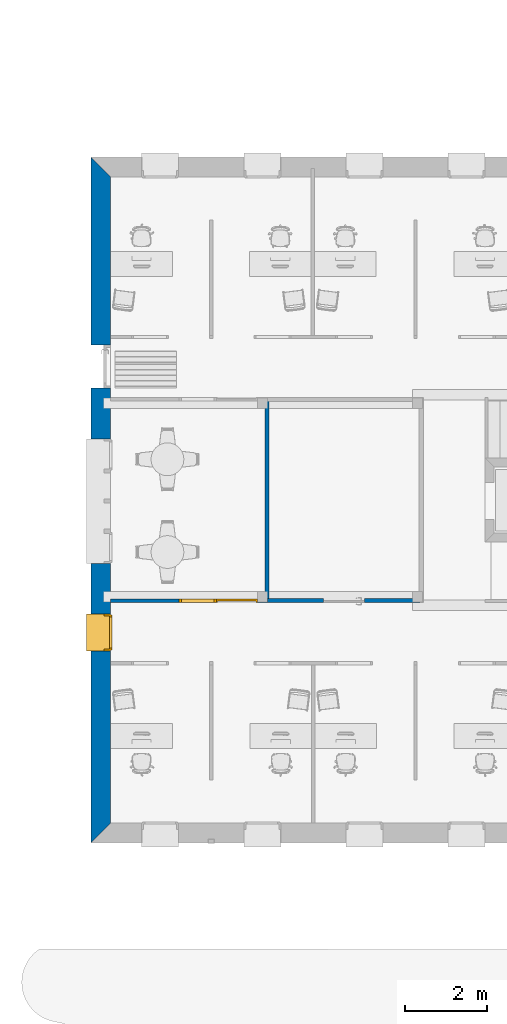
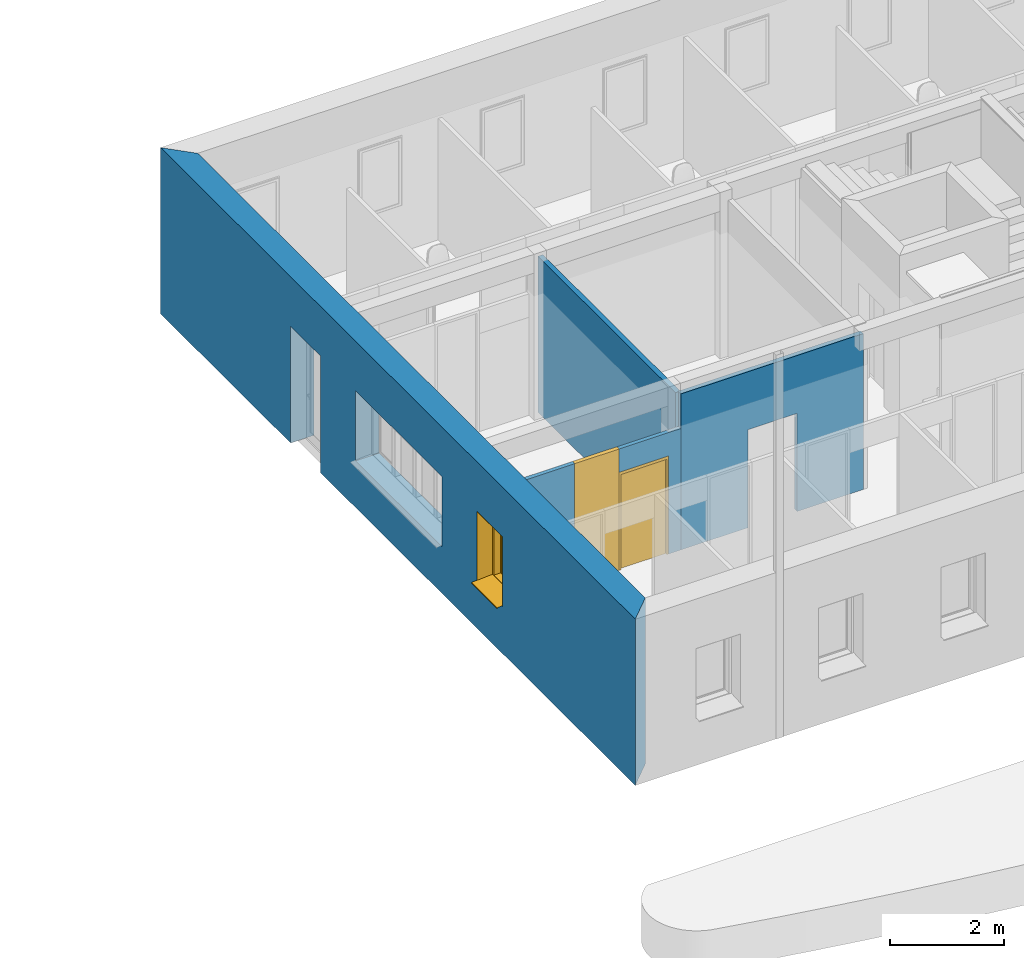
# One storey, part 13 of 91: 4 walls, 2 windows, 1 door, 6 openings.
"""IFC2X3 building model written with IfcOpenShell, lengths in metres."""

from ifc_helpers import new_model, entity, si_unit, converted_unit, derived_unit, money_unit, direction, frame, origin_with_axes, origin_2d_with_axis, place, context, subcontext, project, spatial, polyline, rectangle, outline, extrude, open_shell, faceted_brep, surface_model, source, transform, mapped, material, layer, layer_set, layer_usage, type_object, element, fill, save


model = new_model("IFC2X3")

# Units and contexts
model_context = context("Model", 3, precision=1e-05, world=origin_with_axes(), true_north=direction((0.0, 1.0)))
body_context = subcontext(model_context, "Body", "Model", "MODEL_VIEW")
ifc_project = project(units=[si_unit("LENGTHUNIT", "METRE"), si_unit("AREAUNIT", "SQUARE_METRE"), si_unit("VOLUMEUNIT", "CUBIC_METRE"), converted_unit("PLANEANGLEUNIT", "DEGREE", entity("IfcPlaneAngleMeasure", 0.0174532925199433), si_unit("PLANEANGLEUNIT", "RADIAN"), dimensions=[0, 0, 0, 0, 0, 0, 0]), money_unit("EUR"), converted_unit("TIMEUNIT", "Year", entity("IfcTimeMeasure", 31557600.0), si_unit("TIMEUNIT", "SECOND"), dimensions=[0, 0, 1, 0, 0, 0, 0]), si_unit("MASSUNIT", "GRAM", prefix="KILO"), si_unit("THERMODYNAMICTEMPERATUREUNIT", "DEGREE_CELSIUS"), si_unit("LUMINOUSINTENSITYUNIT", "LUMEN"), si_unit("ENERGYUNIT", "JOULE", prefix="MEGA"), derived_unit("THERMALCONDUCTANCEUNIT", [(si_unit("POWERUNIT", "WATT"), 1), (si_unit("LENGTHUNIT", "METRE"), -1), (si_unit("THERMODYNAMICTEMPERATUREUNIT", "KELVIN"), -1)]), derived_unit("SPECIFICHEATCAPACITYUNIT", [(si_unit("ENERGYUNIT", "JOULE"), 1), (si_unit("MASSUNIT", "GRAM", prefix="KILO"), -1), (si_unit("THERMODYNAMICTEMPERATUREUNIT", "KELVIN"), -1)]), derived_unit("MASSDENSITYUNIT", [(si_unit("MASSUNIT", "GRAM", prefix="KILO"), 1), (si_unit("VOLUMEUNIT", "CUBIC_METRE"), -1)])], contexts=[model_context])

# Site, building, storey
site_placement = place(None, origin_with_axes())
site = spatial("IfcSite", under=ifc_project, at=site_placement, Name="Site", CompositionType="ELEMENT")
building_placement = place(site_placement, origin_with_axes())
building = spatial("IfcBuilding", under=site, at=building_placement, Name="Bâtiment", CompositionType="ELEMENT")
storey_placement = place(building_placement, origin_with_axes())
storey = spatial("IfcBuildingStorey", under=building, at=storey_placement, Name="RDC", CompositionType="ELEMENT", Elevation=0.0)

# Wall, opening
ifc_material_1 = material(Name="*PLAQUE DE PLATRE - CLOISON")
ifc_layer_1 = layer(ifc_material_1, 0.026, ventilated="UNKNOWN")
ifc_material_2 = material(Name="*GENERIQUE - ISOLATION INT")
ifc_layer_2 = layer(ifc_material_2, 0.048, ventilated="UNKNOWN")
ifc_layer_3 = layer(ifc_material_1, 0.026, ventilated="UNKNOWN")
ifc_layer_set_1 = layer_set([ifc_layer_1, ifc_layer_2, ifc_layer_3], Name="*Cloison 98")
ifc_layer_usage_1 = layer_usage(ifc_layer_set_1, "AXIS2", "NEGATIVE", 0.0)
wall_type_1 = type_object("IfcWallType", Name="*Cloison 98 100", PredefinedType="NOTDEFINED")
wall_1_placement = place(storey_placement, frame((32.61300800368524, -21.59756192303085, 0.0), z_axis=(0.0, 0.0, 1.0), x_axis=(-1.0, 0.0, 0.0)))
wall_1 = element("IfcWallStandardCase", 1, at=wall_1_placement, inside=storey, type_object=wall_type_1, material=ifc_layer_usage_1, Name="Cloison ép.10 - CF1h", context=body_context, shape_type="SweptSolid", body=[
    extrude(outline(polyline([(0.0, -0.1000000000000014), (3.697624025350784, -0.1000000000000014), (3.697624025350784, 0.0), (0.0, 0.0), (0.0, -0.1000000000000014)])), origin_with_axes(), (0.0, 0.0, 1.0), 3.34),
])
opening_1_placement = place(wall_1_placement, frame((1.841311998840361, 0.0, 0.0), z_axis=(0.0, 0.0, 1.0), x_axis=(1.0, 0.0, 0.0)))
element("IfcOpeningElement", 2, at=opening_1_placement, cuts=wall_1, Name="Pi.04 REI30", context=body_context, shape_type="SweptSolid", body=[
    extrude(rectangle(XDim=1.0, YDim=2.1, at=origin_2d_with_axis()), frame((0.0, -0.1000000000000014, 1.05), z_axis=(0.0, -1.0, 0.0), x_axis=(1.0, 0.0, 0.0)), (0.0, 0.0, -1.0), 0.3),
])

# Wall
ifc_layer_usage_2 = layer_usage(ifc_layer_set_1, "AXIS2", "POSITIVE", 0.0)
wall_2_placement = place(storey_placement, frame((28.85038397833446, -16.61756236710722, 0.0), z_axis=(0.0, 0.0, 1.0), x_axis=(0.0, -1.0, 0.0)))
element("IfcWallStandardCase", 3, at=wall_2_placement, inside=storey, type_object=wall_type_1, material=ifc_layer_usage_2, Name="Cloison ép.10 - CF1h", context=body_context, shape_type="SweptSolid", body=[
    extrude(outline(polyline([(0.0799999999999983, 0.0), (4.899999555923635, 0.0), (4.899999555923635, 0.1000000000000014), (0.0799999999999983, 0.1000000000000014), (0.0799999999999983, 0.0)])), origin_with_axes(), (0.0, 0.0, 1.0), 3.34),
])

# Wall, openings, window, door
ifc_layer_4 = layer(ifc_material_1, 0.08, ventilated="UNKNOWN")
ifc_layer_set_2 = layer_set([ifc_layer_4], Name="*PLAQUE DE PLATRE - CLOISON 0.08")
ifc_layer_usage_3 = layer_usage(ifc_layer_set_2, "AXIS2", "NEGATIVE", 0.0)
wall_type_2 = type_object("IfcWallType", Name="*PLAQUE DE PLATRE - CLOISON 80", PredefinedType="NOTDEFINED")
wall_3_placement = place(storey_placement, frame((28.91538397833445, -21.59756192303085, 0.0), z_axis=(0.0, 0.0, 1.0), x_axis=(-1.0, 0.0, 0.0)))
wall_3 = element("IfcWallStandardCase", 4, at=wall_3_placement, inside=storey, type_object=wall_type_2, material=ifc_layer_usage_3, Name="Cloison modulaire", context=body_context, shape_type="SweptSolid", body=[
    extrude(outline(polyline([(0.0, -0.0799999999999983), (3.815383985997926, -0.0799999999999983), (3.815383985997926, 0.0), (0.0, 0.0), (0.0, -0.0799999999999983)])), origin_with_axes(), (0.0, 0.0, 1.0), 2.6),
])
opening_2_placement = place(wall_3_placement, frame((1.699999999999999, 0.0, 0.0), z_axis=(0.0, 0.0, 1.0), x_axis=(1.0, 0.0, 0.0)))
opening_2 = element("IfcOpeningElement", 5, at=opening_2_placement, cuts=wall_3, Name="CH.1+vitrophanie", context=body_context, shape_type="SweptSolid", body=[
    extrude(rectangle(XDim=0.8999999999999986, YDim=2.6, at=origin_2d_with_axis()), frame((0.0, -0.0799999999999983, 1.3), z_axis=(0.0, -1.0, 0.0), x_axis=(-1.0, 0.0, 0.0)), (0.0, 0.0, -1.0), 0.24),
])
opening_3_placement = place(wall_3_placement, frame((0.75, 0.0, 0.0), z_axis=(0.0, 0.0, 1.0), x_axis=(1.0, 0.0, 0.0)))
opening_3 = element("IfcOpeningElement", 6, at=opening_3_placement, cuts=wall_3, Name="Pi.01", context=body_context, shape_type="SweptSolid", body=[
    extrude(rectangle(XDim=1.0, YDim=2.1, at=origin_2d_with_axis()), frame((0.0, 0.08000000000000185, 1.05), z_axis=(0.0, -1.0, 0.0), x_axis=(-1.0, 0.0, 0.0)), (0.0, 0.0, 1.0), 0.24),
])
window_style_1 = type_object("IfcWindowStyle", Name="Fenêtre 27", ConstructionType="NOTDEFINED", OperationType="SINGLE_PANEL", ParameterTakesPrecedence=False, Sizeable=False)
shared_shape_1 = source(origin_with_axes(), body_context, "Body", "SurfaceModel", [
    faceted_brep([(0.4, -0.08000000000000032, 2.55), (0.45, -0.08000000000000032, 2.6), (0.45, 0.0, 2.6), (0.4, 0.0, 2.55), (0.4, -0.08, 0.05), (0.45, -0.08, 0.0), (0.45, 0.0, 0.0), (0.4, 0.0, 0.05)], [[[0, 1, 2, 3]], [[0, 4, 5, 1]], [[1, 5, 6, 2]], [[3, 2, 6, 7]], [[4, 0, 3, 7]], [[5, 4, 7, 6]]]),
    faceted_brep([(-0.4, -0.08, 0.05), (-0.45, -0.08, 0.0), (-0.45, 0.0, 0.0), (-0.4, 0.0, 0.05), (-0.4, -0.08000000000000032, 2.55), (-0.45, -0.08000000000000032, 2.6), (-0.45, 0.0, 2.6), (-0.4, 0.0, 2.55)], [[[0, 1, 2, 3]], [[0, 4, 5, 1]], [[1, 5, 6, 2]], [[3, 2, 6, 7]], [[4, 0, 3, 7]], [[5, 4, 7, 6]]]),
    faceted_brep([(0.4, -0.08, 0.05), (0.45, -0.08, 0.0), (0.45, 0.0, 0.0), (0.4, 0.0, 0.05), (-0.4, -0.08, 0.05), (-0.45, -0.08, 0.0), (-0.45, 0.0, 0.0), (-0.4, 0.0, 0.05)], [[[0, 1, 2, 3]], [[0, 4, 5, 1]], [[1, 5, 6, 2]], [[3, 2, 6, 7]], [[4, 0, 3, 7]], [[5, 4, 7, 6]]]),
    faceted_brep([(-0.4, -0.08000000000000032, 2.55), (-0.45, -0.08000000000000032, 2.6), (-0.45, 0.0, 2.6), (-0.4, 0.0, 2.55), (0.4, -0.08000000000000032, 2.55), (0.45, -0.08000000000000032, 2.6), (0.45, 0.0, 2.6), (0.4, 0.0, 2.55)], [[[0, 1, 2, 3]], [[0, 4, 5, 1]], [[1, 5, 6, 2]], [[3, 2, 6, 7]], [[4, 0, 3, 7]], [[5, 4, 7, 6]]]),
    surface_model("IfcShellBasedSurfaceModel", [(0.4, -0.02, 0.05000000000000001), (0.4, -0.02000000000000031, 2.55), (-0.4, -0.02000000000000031, 2.55), (-0.4, -0.02, 0.05000000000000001)], [open_shell([[[0, 1, 2, 3]]])]),
    surface_model("IfcShellBasedSurfaceModel", [(0.4, 0.0, 0.05000000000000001), (-0.4, 0.0, 0.05000000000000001), (-0.4, 0.0, 2.55), (0.4, 0.0, 2.55)], [open_shell([[[0, 1, 2, 3]]])]),
])
window_1_placement = place(opening_2_placement, frame((-0.4499999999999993, 0.0, 0.0), z_axis=(0.0, 0.0, 1.0), x_axis=(1.0, 0.0, 0.0)))
window_1 = element("IfcWindow", 7, at=window_1_placement, inside=storey, type_object=window_style_1, Name="CH.1+vitrophanie", OverallHeight=2.6, OverallWidth=0.9, context=body_context, shape_type="MappedRepresentation", body=[
    mapped(shared_shape_1, transform((0.4499999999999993, 0.0, 0.0))),
])
fill(opening_2, window_1)
door_style = type_object("IfcDoorStyle", Name="Porte 27", ConstructionType="NOTDEFINED", OperationType="SINGLE_SWING_RIGHT", ParameterTakesPrecedence=False, Sizeable=False)
shared_shape_2 = source(origin_with_axes(), body_context, "Body", "Brep", [
    faceted_brep([(-0.465, -0.04, 0.0), (-0.465, -0.04, 2.04), (-0.465, -0.08, 2.04), (-0.465, -0.08, 0.0), (-0.495, -0.04, 2.04), (-0.495, -0.04, 0.0), (-0.495, 0.0, 2.04), (-0.5, 0.0, 2.04), (-0.5, -0.08, 2.04), (-0.5, -0.08, 0.0), (-0.5, 0.0, 0.0), (-0.495, 0.0, 0.0)], [[[0, 1, 2, 3]], [[4, 1, 0, 5]], [[4, 6, 7, 8, 2, 1]], [[3, 2, 8, 9]], [[5, 0, 3, 9, 10, 11]], [[6, 4, 5, 11]], [[6, 11, 10, 7]], [[10, 9, 8, 7]]]),
    faceted_brep([(0.495, -0.04, 2.04), (0.465, -0.04, 2.04), (0.465, -0.08, 2.04), (0.5, -0.08, 2.04), (0.5, 0.0, 2.04), (0.495, 0.0, 2.04), (0.495, -0.04, 0.0), (0.465, -0.04, 0.0), (0.465, -0.08, 0.0), (0.5, -0.08, 0.0), (0.5, 0.0, 0.0), (0.495, 0.0, 0.0)], [[[0, 1, 2, 3, 4, 5]], [[1, 0, 6, 7]], [[1, 7, 8, 2]], [[3, 2, 8, 9]], [[4, 3, 9, 10]], [[11, 5, 4, 10]], [[0, 5, 11, 6]], [[6, 11, 10, 9, 8, 7]]]),
    faceted_brep([(-0.495, 0.0, 2.07), (-0.495, 0.0, 2.04), (-0.5, 0.0, 2.04), (-0.5, 0.0, 2.1), (0.5, 0.0, 2.1), (0.5, 0.0, 2.04), (0.495, 0.0, 2.04), (0.495, 0.0, 2.07), (-0.495, -0.04, 2.07), (-0.495, -0.04, 2.04), (-0.465, -0.04, 2.04), (-0.465, -0.08, 2.04), (-0.5, -0.08, 2.04), (-0.5, -0.08, 2.1), (0.5, -0.08, 2.1), (0.5, -0.08, 2.04), (0.495, -0.04, 2.04), (0.465, -0.08, 2.04), (0.465, -0.04, 2.04), (0.495, -0.04, 2.07)], [[[0, 1, 2, 3, 4, 5, 6, 7]], [[1, 0, 8, 9]], [[9, 10, 11, 12, 2, 1]], [[2, 12, 13, 3]], [[3, 13, 14, 4]], [[4, 14, 15, 5]], [[16, 6, 5, 15, 17, 18]], [[7, 6, 16, 19]], [[0, 7, 19, 8]], [[16, 18, 10, 9, 8, 19]], [[10, 18, 17, 11]], [[17, 15, 14, 13, 12, 11]]]),
    faceted_brep([(0.495, 0.0, 0.0), (0.495, -0.04, 0.0), (-0.495, -0.04, 0.0), (-0.495, 0.0, 0.0), (0.495, 0.0, 2.07), (0.495, -0.04000000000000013, 2.07), (-0.495, -0.04000000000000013, 2.07), (-0.495, 0.0, 2.07)], [[[0, 1, 2, 3]], [[4, 5, 1, 0]], [[1, 5, 6, 2]], [[3, 2, 6, 7]], [[0, 3, 7, 4]], [[7, 6, 5, 4]]]),
])
door_placement = place(opening_3_placement, frame((0.5, 0.0, 0.0), z_axis=(0.0, 0.0, 1.0), x_axis=(-1.0, 0.0, 0.0)))
door = element("IfcDoor", 8, at=door_placement, inside=storey, type_object=door_style, Name="Pi.01", OverallHeight=2.1, OverallWidth=1.0, context=body_context, shape_type="MappedRepresentation", body=[
    mapped(shared_shape_2, transform((0.5, 0.0799999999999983, 0.0))),
])
fill(opening_3, door)

# Wall, openings, window
ifc_material_3 = material(Name="*MÉTAL- BARDAGE")
ifc_layer_5 = layer(ifc_material_3, 0.04, ventilated="UNKNOWN")
ifc_material_4 = material(Name="Divers - Vide faux plafond")
ifc_layer_6 = layer(ifc_material_4, 0.05, ventilated="UNKNOWN")
ifc_material_5 = material(Name="Finition int - Enduit plâtre")
ifc_layer_7 = layer(ifc_material_5, 0.01, ventilated="UNKNOWN")
ifc_material_6 = material(Name="*GENERIQUE - MAÇONNERIE")
ifc_layer_8 = layer(ifc_material_6, 0.2, ventilated="UNKNOWN")
ifc_layer_9 = layer(ifc_material_5, 0.01, ventilated="UNKNOWN")
ifc_material_7 = material(Name="Vide pour liteaux")
ifc_layer_10 = layer(ifc_material_7, 0.01, ventilated="UNKNOWN")
ifc_material_8 = material(Name="*GENERIQUE - ISOLATION PLANCHER")
ifc_layer_11 = layer(ifc_material_8, 0.14, ventilated="UNKNOWN")
ifc_material_9 = material(Name="*PLAQUE DE PLATRE - DOUBLAGE")
ifc_layer_12 = layer(ifc_material_9, 0.018, ventilated="UNKNOWN")
ifc_layer_set_3 = layer_set([ifc_layer_5, ifc_layer_6, ifc_layer_7, ifc_layer_8, ifc_layer_9, ifc_layer_10, ifc_layer_11, ifc_layer_12], Name="*MACONNERIE ITI BARDAGE METAL")
ifc_layer_usage_4 = layer_usage(ifc_layer_set_3, "AXIS2", "POSITIVE", -0.478)
wall_type_3 = type_object("IfcWallType", Name="*MACONNERIE ITI BARDAGE METAL 478", PredefinedType="NOTDEFINED")
wall_4_placement = place(storey_placement, frame((25.09999999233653, -11.25756213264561, 0.0), z_axis=(0.0, 0.0, 1.0), x_axis=(0.0, -1.0, 0.0)))
wall_4 = element("IfcWallStandardCase", 9, at=wall_4_placement, inside=storey, type_object=wall_type_3, material=ifc_layer_usage_4, Name="Mur maçonné + ITI + véture métallique", context=body_context, shape_type="SweptSolid", body=[
    extrude(outline(polyline([(-0.477999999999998, -0.4780000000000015), (16.17800002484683, -0.4780000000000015), (15.70000002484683, 0.0), (0.0, 0.0), (-0.477999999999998, -0.4780000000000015)])), origin_with_axes(), (0.0, 0.0, 1.0), 3.56),
])
opening_4_placement = place(wall_4_placement, frame((7.877000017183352, 0.0, 1.0), z_axis=(0.0, 0.0, 1.0), x_axis=(1.0, 0.0, 0.0)))
element("IfcOpeningElement", 10, at=opening_4_placement, cuts=wall_4, Name="ME.04", context=body_context, shape_type="SweptSolid", body=[
    extrude(rectangle(XDim=3.027999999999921, YDim=1.5, at=origin_2d_with_axis()), frame((0.0, -0.1580000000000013, 0.75), z_axis=(0.0, -1.0, 0.0), x_axis=(-1.0, 0.0, 0.0)), (0.0, 0.0, 1.0), 0.798),
    extrude(rectangle(XDim=3.027999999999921, YDim=1.5, at=origin_2d_with_axis()), frame((0.0, -0.1580000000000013, 0.75), z_axis=(0.0, 1.0, 0.0), x_axis=(-1.0, 0.0, 0.0)), (0.0, 0.0, 1.0), 0.6360000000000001),
])
opening_5_placement = place(wall_4_placement, frame((11.06500000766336, 0.0, 1.0), z_axis=(0.0, 0.0, 1.0), x_axis=(1.0, 0.0, 0.0)))
opening_5 = element("IfcOpeningElement", 11, at=opening_5_placement, cuts=wall_4, Name="ME.01", context=body_context, shape_type="SweptSolid", body=[
    extrude(rectangle(XDim=0.8999999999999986, YDim=1.5, at=origin_2d_with_axis()), frame((0.0, -0.1580000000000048, 0.75), z_axis=(0.0, -1.0, 0.0), x_axis=(-1.0, 0.0, 0.0)), (0.0, 0.0, 1.0), 0.798),
    extrude(rectangle(XDim=0.8999999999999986, YDim=1.5, at=origin_2d_with_axis()), frame((0.0, -0.1580000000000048, 0.75), z_axis=(0.0, 1.0, 0.0), x_axis=(-1.0, 0.0, 0.0)), (0.0, 0.0, 1.0), 0.6360000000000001),
])
opening_6_placement = place(wall_4_placement, frame((4.610000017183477, 0.0, 0.0), z_axis=(0.0, 0.0, 1.0), x_axis=(1.0, 0.0, 0.0)))
element("IfcOpeningElement", 12, at=opening_6_placement, cuts=wall_4, Name="PE.03", context=body_context, shape_type="SweptSolid", body=[
    extrude(rectangle(XDim=1.049999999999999, YDim=2.5, at=origin_2d_with_axis()), frame((0.0, -0.1580000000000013, 1.25), z_axis=(0.0, -1.0, 0.0), x_axis=(1.0, 0.0, 0.0)), (0.0, 0.0, 1.0), 0.798),
    extrude(rectangle(XDim=1.049999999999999, YDim=2.5, at=origin_2d_with_axis()), frame((0.0, -0.1580000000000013, 1.25), z_axis=(0.0, 1.0, 0.0), x_axis=(1.0, 0.0, 0.0)), (0.0, 0.0, 1.0), 0.6360000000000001),
])
window_style_2 = type_object("IfcWindowStyle", Name="Fenêtre 27", ConstructionType="NOTDEFINED", OperationType="SINGLE_PANEL", ParameterTakesPrecedence=False, Sizeable=False)
shared_shape_3 = source(origin_with_axes(), body_context, "Body", "SurfaceModel", [
    surface_model("IfcShellBasedSurfaceModel", [(0.45, -0.161, 0.05), (-0.45, -0.161, 0.05000000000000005), (-0.45, -0.161, 0.04000000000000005), (0.45, -0.161, 0.03999999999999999), (-0.45, -0.5850000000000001, 0.01343749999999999), (0.45, -0.5850000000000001, 0.01343749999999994), (-0.45, -0.5850000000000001, -0.006562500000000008), (0.45, -0.5850000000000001, -0.006562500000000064), (-0.45, -0.5750000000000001, 0.003437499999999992), (0.45, -0.5750000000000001, 0.003437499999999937)], [open_shell([[[0, 1, 2, 3]], [[3, 2, 4, 5]], [[5, 4, 6, 7]], [[7, 6, 8, 9]]])]),
    faceted_brep([(0.447, -0.48, 0.02001547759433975), (0.447, -0.4799999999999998, 1.497), (0.447, -0.1599999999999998, 1.497), (0.447, -0.16, 0.05000000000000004), (0.447, -0.161, 0.05000000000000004), (0.447, -0.161, 0.04000000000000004), (0.45, -0.4799999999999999, 0.02001547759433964), (0.45, -0.4799999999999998, 1.5), (0.45, -0.1599999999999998, 1.5), (0.45, -0.16, 0.05000000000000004), (0.45, -0.161, 0.05000000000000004), (0.45, -0.161, 0.04000000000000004)], [[[0, 1, 2, 3, 4, 5]], [[6, 7, 1, 0]], [[8, 2, 1, 7]], [[3, 2, 8, 9]], [[3, 9, 10, 4]], [[4, 10, 11, 5]], [[5, 11, 6, 0]], [[11, 10, 9, 8, 7, 6]]]),
    faceted_brep([(-0.45, -0.48, 0.02001547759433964), (-0.45, -0.4799999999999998, 1.5), (-0.45, -0.1599999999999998, 1.5), (-0.45, -0.16, 0.05000000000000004), (-0.45, -0.161, 0.05000000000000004), (-0.45, -0.161, 0.04000000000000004), (-0.447, -0.48, 0.02001547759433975), (-0.447, -0.4799999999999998, 1.497), (-0.447, -0.1599999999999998, 1.497), (-0.447, -0.16, 0.05000000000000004), (-0.447, -0.161, 0.05000000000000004), (-0.447, -0.161, 0.04000000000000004)], [[[0, 1, 2, 3, 4, 5]], [[6, 7, 1, 0]], [[8, 2, 1, 7]], [[3, 2, 8, 9]], [[3, 9, 10, 4]], [[4, 10, 11, 5]], [[5, 11, 6, 0]], [[11, 10, 9, 8, 7, 6]]]),
    faceted_brep([(0.45, -0.1599999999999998, 1.5), (0.45, -0.4799999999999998, 1.5), (0.447, -0.4799999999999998, 1.497), (0.447, -0.1599999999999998, 1.497), (-0.45, -0.1599999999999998, 1.5), (-0.45, -0.4799999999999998, 1.5), (-0.447, -0.4799999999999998, 1.497), (-0.447, -0.1599999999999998, 1.497)], [[[0, 1, 2, 3]], [[4, 5, 1, 0]], [[1, 5, 6, 2]], [[3, 2, 6, 7]], [[0, 3, 7, 4]], [[7, 6, 5, 4]]]),
    faceted_brep([(0.425, 0.0, 1.45), (0.425, -0.02500000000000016, 1.45), (0.4, -0.02500000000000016, 1.45), (0.4, -0.1600000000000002, 1.45), (0.45, -0.1600000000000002, 1.45), (0.45, 0.0, 1.45), (0.425, 0.0, 0.05000000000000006), (0.425, -0.02499999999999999, 0.05000000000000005), (0.4, -0.02499999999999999, 0.05000000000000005), (0.4, -0.16, 0.05000000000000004), (0.45, -0.16, 0.05000000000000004), (0.45, 0.0, 0.05000000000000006)], [[[0, 1, 2, 3, 4, 5]], [[1, 0, 6, 7]], [[8, 2, 1, 7]], [[2, 8, 9, 3]], [[4, 3, 9, 10]], [[5, 4, 10, 11]], [[6, 0, 5, 11]], [[7, 6, 11, 10, 9, 8]]]),
    faceted_brep([(-0.4, -0.02500000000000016, 1.45), (-0.425, -0.02500000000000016, 1.45), (-0.425, 0.0, 1.45), (-0.45, 0.0, 1.45), (-0.45, -0.1600000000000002, 1.45), (-0.4, -0.1600000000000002, 1.45), (-0.4, -0.02499999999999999, 0.05000000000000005), (-0.425, -0.02499999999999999, 0.05000000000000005), (-0.425, 0.0, 0.05000000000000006), (-0.45, 0.0, 0.05000000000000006), (-0.45, -0.16, 0.05000000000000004), (-0.4, -0.16, 0.05000000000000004)], [[[0, 1, 2, 3, 4, 5]], [[1, 0, 6, 7]], [[8, 2, 1, 7]], [[2, 8, 9, 3]], [[9, 10, 4, 3]], [[10, 11, 5, 4]], [[6, 0, 5, 11]], [[7, 6, 11, 10, 9, 8]]]),
    faceted_brep([(-0.4, -0.02499999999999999, 0.05000000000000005), (-0.425, -0.02499999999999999, 0.05000000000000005), (-0.425, 0.0, 0.05000000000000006), (-0.45, 0.0, 0.05000000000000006), (-0.45, -0.16, 0.05000000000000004), (-0.4, -0.16, 0.05000000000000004), (0.4, -0.02499999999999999, 0.05000000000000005), (0.425, -0.02499999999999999, 0.05000000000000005), (0.425, -0.02499999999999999, 0.02500000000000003), (-0.425, -0.02499999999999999, 0.02500000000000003), (-0.425, 0.0, 0.02500000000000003), (0.425, 0.0, 0.02500000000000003), (0.425, 0.0, 0.05000000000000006), (0.45, 0.0, 0.05000000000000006), (0.45, 0.0, 0.0), (-0.45, 0.0, 0.0), (-0.45, -0.16, 0.0), (0.45, -0.16, 0.05000000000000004), (0.4, -0.16, 0.05000000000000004), (0.45, -0.16, 0.0)], [[[0, 1, 2, 3, 4, 5]], [[1, 0, 6, 7, 8, 9]], [[10, 2, 1, 9]], [[11, 12, 13, 14, 15, 3, 2, 10]], [[15, 16, 4, 3]], [[17, 18, 5, 4, 16, 19]], [[6, 0, 5, 18]], [[7, 6, 18, 17, 13, 12]], [[7, 12, 11, 8]], [[11, 10, 9, 8]], [[13, 17, 19, 14]], [[14, 19, 16, 15]]]),
    faceted_brep([(0.425, 0.0, 1.45), (0.425, 0.0, 1.475), (-0.425, 0.0, 1.475), (-0.425, 0.0, 1.45), (-0.45, 0.0, 1.45), (-0.45, 0.0, 1.5), (0.45, 0.0, 1.5), (0.45, 0.0, 1.45), (0.425, -0.02500000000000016, 1.45), (0.425, -0.02500000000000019, 1.475), (-0.425, -0.02500000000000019, 1.475), (-0.425, -0.02500000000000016, 1.45), (-0.4, -0.02500000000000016, 1.45), (-0.4, -0.1600000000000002, 1.45), (-0.45, -0.1600000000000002, 1.45), (-0.45, -0.1600000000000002, 1.5), (0.45, -0.1600000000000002, 1.5), (0.45, -0.1600000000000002, 1.45), (0.4, -0.1600000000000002, 1.45), (0.4, -0.02500000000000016, 1.45)], [[[0, 1, 2, 3, 4, 5, 6, 7]], [[1, 0, 8, 9]], [[2, 1, 9, 10]], [[3, 2, 10, 11]], [[11, 12, 13, 14, 4, 3]], [[4, 14, 15, 5]], [[5, 15, 16, 6]], [[6, 16, 17, 7]], [[8, 0, 7, 17, 18, 19]], [[12, 11, 10, 9, 8, 19]], [[12, 19, 18, 13]], [[14, 13, 18, 17, 16, 15]]]),
    faceted_brep([(0.3750000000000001, -0.02500000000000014, 1.425), (0.425, -0.02500000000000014, 1.425), (0.425, 0.02499999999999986, 1.425), (0.3750000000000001, 0.02499999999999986, 1.425), (0.3750000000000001, -0.02499999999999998, 0.07500000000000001), (0.425, -0.02499999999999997, 0.07500000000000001), (0.425, 0.02500000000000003, 0.07500000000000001), (0.3750000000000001, 0.02500000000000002, 0.07500000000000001)], [[[0, 1, 2, 3]], [[0, 4, 5, 1]], [[1, 5, 6, 2]], [[3, 2, 6, 7]], [[4, 0, 3, 7]], [[5, 4, 7, 6]]]),
    faceted_brep([(-0.3750000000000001, -0.02500000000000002, 0.07500000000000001), (-0.425, -0.02500000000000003, 0.07500000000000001), (-0.425, 0.02499999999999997, 0.07500000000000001), (-0.3750000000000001, 0.02499999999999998, 0.07500000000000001), (-0.3750000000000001, -0.02500000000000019, 1.425), (-0.425, -0.02500000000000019, 1.425), (-0.425, 0.02499999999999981, 1.425), (-0.3750000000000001, 0.02499999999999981, 1.425)], [[[0, 1, 2, 3]], [[0, 4, 5, 1]], [[1, 5, 6, 2]], [[3, 2, 6, 7]], [[4, 0, 3, 7]], [[5, 4, 7, 6]]]),
    faceted_brep([(-0.425, -0.02500000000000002, 0.02500000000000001), (-0.425, -0.02500000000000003, 0.07500000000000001), (-0.425, 0.02499999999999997, 0.07500000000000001), (-0.425, 0.02499999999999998, 0.02500000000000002), (0.425, -0.02499999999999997, 0.02500000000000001), (0.425, -0.02499999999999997, 0.07500000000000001), (0.3750000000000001, -0.02499999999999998, 0.07500000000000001), (-0.3750000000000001, -0.02500000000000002, 0.07500000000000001), (-0.3750000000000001, 0.02499999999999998, 0.07500000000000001), (0.3750000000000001, 0.02500000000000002, 0.07500000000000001), (0.425, 0.02500000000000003, 0.07500000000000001), (0.425, 0.02500000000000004, 0.02500000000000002)], [[[0, 1, 2, 3]], [[0, 4, 5, 6, 7, 1]], [[1, 7, 8, 2]], [[3, 2, 8, 9, 10, 11]], [[4, 0, 3, 11]], [[5, 4, 11, 10]], [[6, 5, 10, 9]], [[7, 6, 9, 8]]]),
    faceted_brep([(0.425, -0.02500000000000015, 1.475), (0.425, -0.02500000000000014, 1.425), (0.425, 0.02499999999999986, 1.425), (0.425, 0.02499999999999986, 1.475), (-0.425, -0.0250000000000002, 1.475), (-0.425, -0.02500000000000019, 1.425), (-0.3750000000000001, -0.02500000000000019, 1.425), (0.3750000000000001, -0.02500000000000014, 1.425), (0.3750000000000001, 0.02499999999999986, 1.425), (-0.3750000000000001, 0.02499999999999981, 1.425), (-0.425, 0.02499999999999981, 1.425), (-0.425, 0.0249999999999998, 1.475)], [[[0, 1, 2, 3]], [[0, 4, 5, 6, 7, 1]], [[1, 7, 8, 2]], [[3, 2, 8, 9, 10, 11]], [[4, 0, 3, 11]], [[5, 4, 11, 10]], [[6, 5, 10, 9]], [[7, 6, 9, 8]]]),
    surface_model("IfcShellBasedSurfaceModel", [(0.3750000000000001, -0.01, 0.07500000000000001), (0.3750000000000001, -0.01000000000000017, 1.425), (-0.3750000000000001, -0.01000000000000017, 1.425), (-0.3750000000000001, -0.01, 0.07500000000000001)], [open_shell([[[0, 1, 2, 3]]])]),
    surface_model("IfcShellBasedSurfaceModel", [(0.3750000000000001, 0.01, 0.07500000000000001), (-0.3750000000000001, 0.01, 0.07500000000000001), (-0.3750000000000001, 0.009999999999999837, 1.425), (0.3750000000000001, 0.009999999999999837, 1.425)], [open_shell([[[0, 1, 2, 3]]])]),
])
window_2_placement = place(opening_5_placement, frame((-0.4499999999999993, 0.0, 0.0), z_axis=(0.0, 0.0, 1.0), x_axis=(1.0, 0.0, 0.0)))
window_2 = element("IfcWindow", 13, at=window_2_placement, inside=storey, type_object=window_style_2, Name="ME.01", OverallHeight=1.5, OverallWidth=0.9, context=body_context, shape_type="MappedRepresentation", body=[
    mapped(shared_shape_3, transform((0.4499999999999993, 0.001999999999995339, 0.0))),
])
fill(opening_5, window_2)

save(model, "model.ifc")
